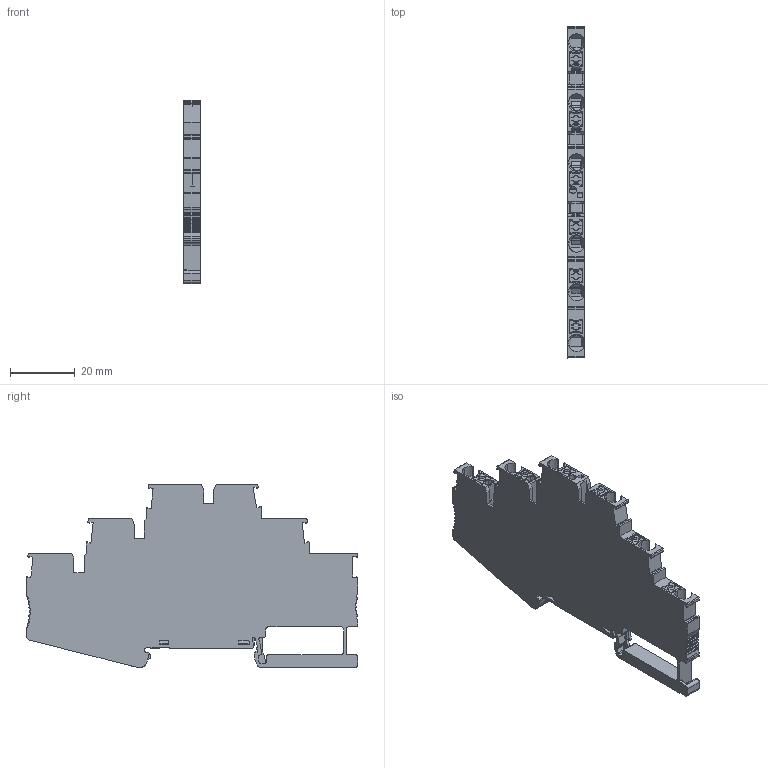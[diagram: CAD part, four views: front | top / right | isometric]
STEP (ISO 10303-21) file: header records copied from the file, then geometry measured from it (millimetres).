
FILE_DESCRIPTION((''),'2;1');
FILE_NAME('ADMI33883A8BA48B_12','2024-04-01T11:23:29',('Administrator'),(''),'CREO PARAMETRIC BY PTC INC, 2018050','CREO PARAMETRIC BY PTC INC, 2018050','');
FILE_SCHEMA(('CONFIG_CONTROL_DESIGN'));
Length unit declared in the file: millimetre
Products named in the file (1): ADMI33883A8BA48B_12
Bounding box: 5.2 x 102.2 x 56.45 mm (x, y, z)
Volume: 18326 mm3; surface area: 14521.7 mm2
Topology: 1 solids, 6 shells, 1429 faces, 4055 edges, 2641 vertices
Faces by surface type: plane 846, cylinder 469, bspline 42, cone 36, torus 36
Entity records: 49982 total; most frequent: CARTESIAN_POINT 13110, ORIENTED_EDGE 8086, DIRECTION 7184, EDGE_CURVE 4043, VECTOR 2818, LINE 2818, VERTEX_POINT 2641, AXIS2_PLACEMENT_3D 2183
